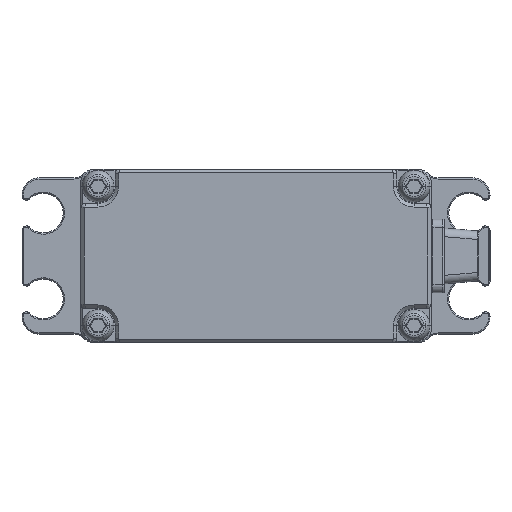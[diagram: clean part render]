
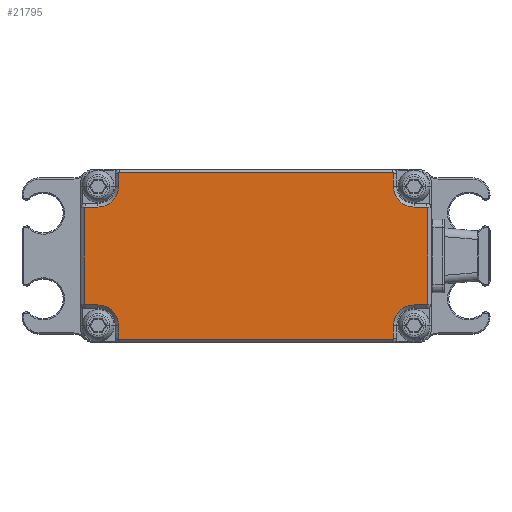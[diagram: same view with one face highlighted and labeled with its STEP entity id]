
A CAD part, front view. The second image highlights one B-rep face of the part: STEP entity #21795.
In plain terms, the highlighted planar face has unit normal (0, -1, 0).
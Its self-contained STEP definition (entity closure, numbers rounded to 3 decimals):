
#7255=DIRECTION('',(0.,0.,-1.));
#7256=VECTOR('',#7255,1.5);
#7257=CARTESIAN_POINT('',(16.,-16.25,
-8.1));
#7258=LINE('',#7257,#7256);
#7259=CARTESIAN_POINT('',(15.9,-16.25,-9.6));
#7260=DIRECTION('',(0.,1.,0.));
#7261=DIRECTION('',(1.,0.,0.));
#7262=AXIS2_PLACEMENT_3D('',#7259,#7260,#7261);
#7264=DIRECTION('',(-1.,0.,0.));
#7265=VECTOR('',#7264,31.8);
#7266=CARTESIAN_POINT('',(15.9,-16.25,
-9.7));
#7267=LINE('',#7266,#7265);
#7268=CARTESIAN_POINT('',(-15.9,-16.25,-9.6));
#7269=DIRECTION('',(0.,1.,0.));
#7270=DIRECTION('',(0.,0.,-1.));
#7271=AXIS2_PLACEMENT_3D('',#7268,#7269,#7270);
#7273=DIRECTION('',(0.,0.,1.));
#7274=VECTOR('',#7273,1.5);
#7275=CARTESIAN_POINT('',(-16.,-16.25,
-9.6));
#7276=LINE('',#7275,#7274);
#7277=CARTESIAN_POINT('',(-18.4,-16.25,-8.1));
#7278=DIRECTION('',(0.,-1.,0.));
#7279=DIRECTION('',(1.,0.,0.));
#7280=AXIS2_PLACEMENT_3D('',#7277,#7278,#7279);
#7282=DIRECTION('',(-1.,0.,0.));
#7283=VECTOR('',#7282,1.5);
#7284=CARTESIAN_POINT('',(-18.4,-16.25,
-5.7));
#7285=LINE('',#7284,#7283);
#7286=CARTESIAN_POINT('',(-19.9,-16.25,-5.6));
#7287=DIRECTION('',(0.,1.,0.));
#7288=DIRECTION('',(0.,0.,-1.));
#7289=AXIS2_PLACEMENT_3D('',#7286,#7287,#7288);
#7291=DIRECTION('',(0.,0.,1.));
#7292=VECTOR('',#7291,11.2);
#7293=CARTESIAN_POINT('',(-20.,-16.25,
-5.6));
#7294=LINE('',#7293,#7292);
#7295=CARTESIAN_POINT('',(-19.9,-16.25,5.6));
#7296=DIRECTION('',(0.,1.,0.));
#7297=DIRECTION('',(-1.,0.,0.));
#7298=AXIS2_PLACEMENT_3D('',#7295,#7296,#7297);
#7300=DIRECTION('',(1.,0.,0.));
#7301=VECTOR('',#7300,1.5);
#7302=CARTESIAN_POINT('',(-19.9,-16.25,
5.7));
#7303=LINE('',#7302,#7301);
#7304=CARTESIAN_POINT('',(-18.4,-16.25,8.1));
#7305=DIRECTION('',(0.,-1.,0.));
#7306=DIRECTION('',(0.,0.,-1.));
#7307=AXIS2_PLACEMENT_3D('',#7304,#7305,#7306);
#7309=DIRECTION('',(0.,0.,1.));
#7310=VECTOR('',#7309,1.5);
#7311=CARTESIAN_POINT('',(-16.,-16.25,
8.1));
#7312=LINE('',#7311,#7310);
#7313=CARTESIAN_POINT('',(-15.9,-16.25,9.6));
#7314=DIRECTION('',(0.,1.,0.));
#7315=DIRECTION('',(-1.,0.,0.));
#7316=AXIS2_PLACEMENT_3D('',#7313,#7314,#7315);
#7318=DIRECTION('',(1.,0.,0.));
#7319=VECTOR('',#7318,31.8);
#7320=CARTESIAN_POINT('',(-15.9,-16.25,
9.7));
#7321=LINE('',#7320,#7319);
#7322=CARTESIAN_POINT('',(15.9,-16.25,9.6));
#7323=DIRECTION('',(0.,1.,0.));
#7324=DIRECTION('',(0.,0.,1.));
#7325=AXIS2_PLACEMENT_3D('',#7322,#7323,#7324);
#7327=DIRECTION('',(0.,0.,-1.));
#7328=VECTOR('',#7327,1.5);
#7329=CARTESIAN_POINT('',(16.,-16.25,9.6));
#7330=LINE('',#7329,#7328);
#7331=CARTESIAN_POINT('',(18.4,-16.25,8.1));
#7332=DIRECTION('',(0.,-1.,0.));
#7333=DIRECTION('',(-1.,0.,0.));
#7334=AXIS2_PLACEMENT_3D('',#7331,#7332,#7333);
#7336=DIRECTION('',(1.,0.,0.));
#7337=VECTOR('',#7336,1.5);
#7338=CARTESIAN_POINT('',(18.4,-16.25,5.7));
#7339=LINE('',#7338,#7337);
#7340=CARTESIAN_POINT('',(19.9,-16.25,5.6));
#7341=DIRECTION('',(0.,1.,0.));
#7342=DIRECTION('',(0.,0.,1.));
#7343=AXIS2_PLACEMENT_3D('',#7340,#7341,#7342);
#7345=DIRECTION('',(0.,0.,-1.));
#7346=VECTOR('',#7345,11.2);
#7347=CARTESIAN_POINT('',(20.,-16.25,5.6));
#7348=LINE('',#7347,#7346);
#7349=CARTESIAN_POINT('',(19.9,-16.25,-5.6));
#7350=DIRECTION('',(0.,1.,0.));
#7351=DIRECTION('',(1.,0.,0.));
#7352=AXIS2_PLACEMENT_3D('',#7349,#7350,#7351);
#7354=DIRECTION('',(-1.,0.,0.));
#7355=VECTOR('',#7354,1.5);
#7356=CARTESIAN_POINT('',(19.9,-16.25,
-5.7));
#7357=LINE('',#7356,#7355);
#7358=CARTESIAN_POINT('',(18.4,-16.25,-8.1));
#7359=DIRECTION('',(0.,-1.,0.));
#7360=DIRECTION('',(0.,0.,1.));
#7361=AXIS2_PLACEMENT_3D('',#7358,#7359,#7360);
#11695=CARTESIAN_POINT('',(16.,-16.25,
-8.1));
#11696=CARTESIAN_POINT('',(16.,-16.25,
-9.6));
#11697=VERTEX_POINT('',#11695);
#11698=VERTEX_POINT('',#11696);
#11699=CARTESIAN_POINT('',(15.9,-16.25,-9.7));
#11700=VERTEX_POINT('',#11699);
#11701=CARTESIAN_POINT('',(-15.9,-16.25,
-9.7));
#11702=VERTEX_POINT('',#11701);
#11703=CARTESIAN_POINT('',(-16.,-16.25,-9.6));
#11704=VERTEX_POINT('',#11703);
#11705=CARTESIAN_POINT('',(-16.,-16.25,
-8.1));
#11706=VERTEX_POINT('',#11705);
#11707=CARTESIAN_POINT('',(-18.4,-16.25,-5.7));
#11708=VERTEX_POINT('',#11707);
#11709=CARTESIAN_POINT('',(-19.9,-16.25,
-5.7));
#11710=VERTEX_POINT('',#11709);
#11711=CARTESIAN_POINT('',(-20.,-16.25,-5.6));
#11712=VERTEX_POINT('',#11711);
#11713=CARTESIAN_POINT('',(-20.,-16.25,
5.6));
#11714=VERTEX_POINT('',#11713);
#11715=CARTESIAN_POINT('',(-19.9,-16.25,5.7));
#11716=VERTEX_POINT('',#11715);
#11717=CARTESIAN_POINT('',(-18.4,-16.25,
5.7));
#11718=VERTEX_POINT('',#11717);
#11719=CARTESIAN_POINT('',(-16.,-16.25,8.1));
#11720=VERTEX_POINT('',#11719);
#11721=CARTESIAN_POINT('',(-16.,-16.25,
9.6));
#11722=VERTEX_POINT('',#11721);
#11723=CARTESIAN_POINT('',(-15.9,-16.25,9.7));
#11724=VERTEX_POINT('',#11723);
#11725=CARTESIAN_POINT('',(15.9,-16.25,
9.7));
#11726=VERTEX_POINT('',#11725);
#11727=CARTESIAN_POINT('',(16.,-16.25,9.6));
#11728=VERTEX_POINT('',#11727);
#11729=CARTESIAN_POINT('',(16.,-16.25,
8.1));
#11730=VERTEX_POINT('',#11729);
#11731=CARTESIAN_POINT('',(18.4,-16.25,5.7));
#11732=VERTEX_POINT('',#11731);
#11733=CARTESIAN_POINT('',(19.9,-16.25,
5.7));
#11734=VERTEX_POINT('',#11733);
#11735=CARTESIAN_POINT('',(20.,-16.25,5.6));
#11736=VERTEX_POINT('',#11735);
#11737=CARTESIAN_POINT('',(20.,-16.25,
-5.6));
#11738=VERTEX_POINT('',#11737);
#11739=CARTESIAN_POINT('',(19.9,-16.25,-5.7));
#11740=VERTEX_POINT('',#11739);
#11741=CARTESIAN_POINT('',(18.4,-16.25,
-5.7));
#11742=VERTEX_POINT('',#11741);
#21742=CARTESIAN_POINT('',(0.,-16.25,0.));
#21743=DIRECTION('',(0.,1.,0.));
#21744=DIRECTION('',(1.,0.,0.));
#21745=AXIS2_PLACEMENT_3D('',#21742,#21743,#21744);
#21746=PLANE('',#21745);
#21748=ORIENTED_EDGE('',*,*,#21747,.T.);
#21750=ORIENTED_EDGE('',*,*,#21749,.T.);
#21752=ORIENTED_EDGE('',*,*,#21751,.T.);
#21754=ORIENTED_EDGE('',*,*,#21753,.T.);
#21756=ORIENTED_EDGE('',*,*,#21755,.T.);
#21758=ORIENTED_EDGE('',*,*,#21757,.T.);
#21760=ORIENTED_EDGE('',*,*,#21759,.T.);
#21762=ORIENTED_EDGE('',*,*,#21761,.T.);
#21764=ORIENTED_EDGE('',*,*,#21763,.T.);
#21766=ORIENTED_EDGE('',*,*,#21765,.T.);
#21768=ORIENTED_EDGE('',*,*,#21767,.T.);
#21770=ORIENTED_EDGE('',*,*,#21769,.T.);
#21772=ORIENTED_EDGE('',*,*,#21771,.T.);
#21773=ORIENTED_EDGE('',*,*,#21721,.T.);
#21774=ORIENTED_EDGE('',*,*,#21733,.T.);
#21776=ORIENTED_EDGE('',*,*,#21775,.T.);
#21778=ORIENTED_EDGE('',*,*,#21777,.T.);
#21780=ORIENTED_EDGE('',*,*,#21779,.T.);
#21782=ORIENTED_EDGE('',*,*,#21781,.T.);
#21784=ORIENTED_EDGE('',*,*,#21783,.T.);
#21786=ORIENTED_EDGE('',*,*,#21785,.T.);
#21788=ORIENTED_EDGE('',*,*,#21787,.T.);
#21790=ORIENTED_EDGE('',*,*,#21789,.T.);
#21792=ORIENTED_EDGE('',*,*,#21791,.T.);
#21793=EDGE_LOOP('',(#21748,#21750,#21752,#21754,#21756,#21758,#21760,#21762,
#21764,#21766,#21768,#21770,#21772,#21773,#21774,#21776,#21778,#21780,#21782,
#21784,#21786,#21788,#21790,#21792));
#21794=FACE_OUTER_BOUND('',#21793,.F.);
#7263=CIRCLE('',#7262,0.1);
#7272=CIRCLE('',#7271,0.1);
#7281=CIRCLE('',#7280,2.4);
#7290=CIRCLE('',#7289,0.1);
#7299=CIRCLE('',#7298,0.1);
#7308=CIRCLE('',#7307,2.4);
#7317=CIRCLE('',#7316,0.1);
#7326=CIRCLE('',#7325,0.1);
#7335=CIRCLE('',#7334,2.4);
#7344=CIRCLE('',#7343,0.1);
#7353=CIRCLE('',#7352,0.1);
#7362=CIRCLE('',#7361,2.4);
#21721=EDGE_CURVE('',#11722,#11724,#7317,.T.);
#21733=EDGE_CURVE('',#11724,#11726,#7321,.T.);
#21747=EDGE_CURVE('',#11697,#11698,#7258,.T.);
#21749=EDGE_CURVE('',#11698,#11700,#7263,.T.);
#21751=EDGE_CURVE('',#11700,#11702,#7267,.T.);
#21753=EDGE_CURVE('',#11702,#11704,#7272,.T.);
#21755=EDGE_CURVE('',#11704,#11706,#7276,.T.);
#21757=EDGE_CURVE('',#11706,#11708,#7281,.T.);
#21759=EDGE_CURVE('',#11708,#11710,#7285,.T.);
#21761=EDGE_CURVE('',#11710,#11712,#7290,.T.);
#21763=EDGE_CURVE('',#11712,#11714,#7294,.T.);
#21765=EDGE_CURVE('',#11714,#11716,#7299,.T.);
#21767=EDGE_CURVE('',#11716,#11718,#7303,.T.);
#21769=EDGE_CURVE('',#11718,#11720,#7308,.T.);
#21771=EDGE_CURVE('',#11720,#11722,#7312,.T.);
#21775=EDGE_CURVE('',#11726,#11728,#7326,.T.);
#21777=EDGE_CURVE('',#11728,#11730,#7330,.T.);
#21779=EDGE_CURVE('',#11730,#11732,#7335,.T.);
#21781=EDGE_CURVE('',#11732,#11734,#7339,.T.);
#21783=EDGE_CURVE('',#11734,#11736,#7344,.T.);
#21785=EDGE_CURVE('',#11736,#11738,#7348,.T.);
#21787=EDGE_CURVE('',#11738,#11740,#7353,.T.);
#21789=EDGE_CURVE('',#11740,#11742,#7357,.T.);
#21791=EDGE_CURVE('',#11742,#11697,#7362,.T.);
#21795=ADVANCED_FACE('',(#21794),#21746,.F.);
